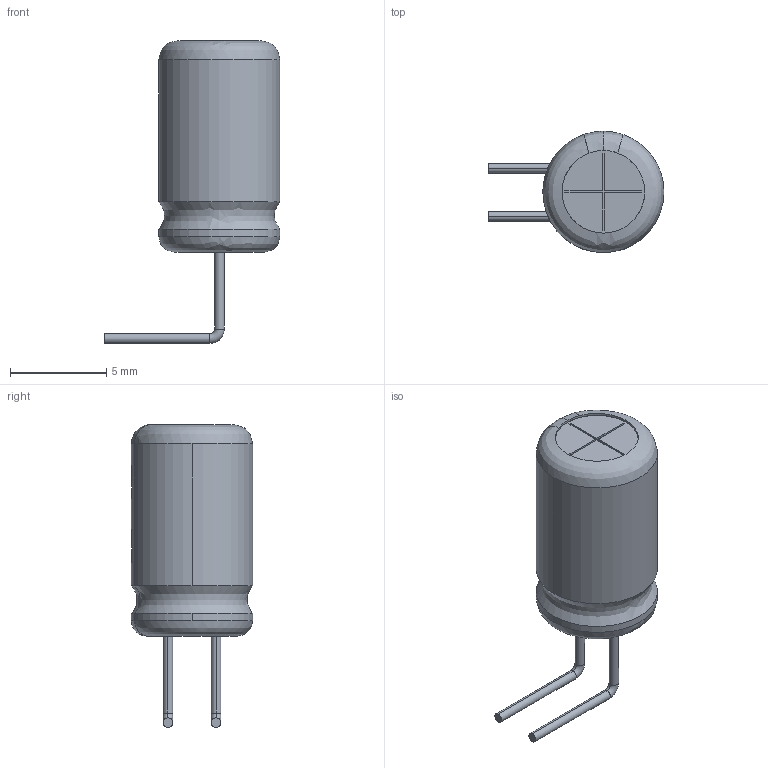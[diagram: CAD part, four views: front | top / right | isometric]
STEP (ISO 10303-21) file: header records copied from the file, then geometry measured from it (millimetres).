
FILE_DESCRIPTION (( 'STEP AP214' ), '1' );
FILE_NAME ('Cap 6_3x11.step', '2020-02-23T16:55:28', ( '' ), ( '' ), 'SwSTEP 2.0', 'SolidWorks 2020', '' );
FILE_SCHEMA (( 'AUTOMOTIVE_DESIGN' ));
Length unit declared in the file: millimetre
Products named in the file (1): Cap 6_3x11
Bounding box: 9.15 x 6.3 x 15.75 mm (x, y, z)
Volume: 333 mm3; surface area: 808.7 mm2
Topology: 10 solids, 10 shells, 134 faces, 332 edges, 219 vertices
Faces by surface type: cylinder 65, plane 41, bspline 24, torus 4
Entity records: 6440 total; most frequent: CARTESIAN_POINT 1938, ORIENTED_EDGE 664, DIRECTION 599, EDGE_CURVE 332, AXIS2_PLACEMENT_3D 223, VERTEX_POINT 219, LINE 153, VECTOR 153
